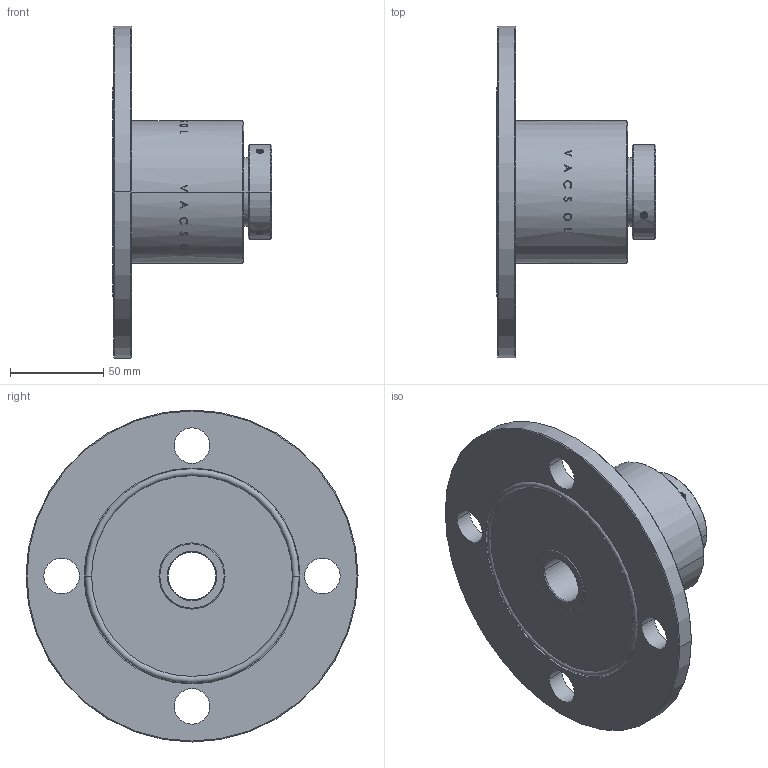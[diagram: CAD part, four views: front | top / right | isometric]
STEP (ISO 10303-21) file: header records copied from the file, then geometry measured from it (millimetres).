
FILE_DESCRIPTION (( 'STEP AP203' ), '1' );
FILE_NAME ('p64020.STEP', '2010-10-11T11:00:49', ( 'user' ), ( '' ), 'SwSTEP 2.0', 'SolidWorks 2007', '' );
FILE_SCHEMA (( 'CONFIG_CONTROL_DESIGN' ));
Length unit declared in the file: millimetre
Products named in the file (1): p64020
Bounding box: 85.6 x 177.8 x 177.8 mm (x, y, z)
Volume: 486132.7 mm3; surface area: 89533 mm2
Topology: 2 solids, 2 shells, 461 faces, 1257 edges, 830 vertices
Faces by surface type: cylinder 236, bspline 183, cone 20, plane 18, torus 4
Entity records: 34310 total; most frequent: CARTESIAN_POINT 25178, ORIENTED_EDGE 2514, EDGE_CURVE 1257, DIRECTION 997, VERTEX_POINT 830, B_SPLINE_CURVE_WITH_KNOTS 556, EDGE_LOOP 509, FACE_OUTER_BOUND 461
